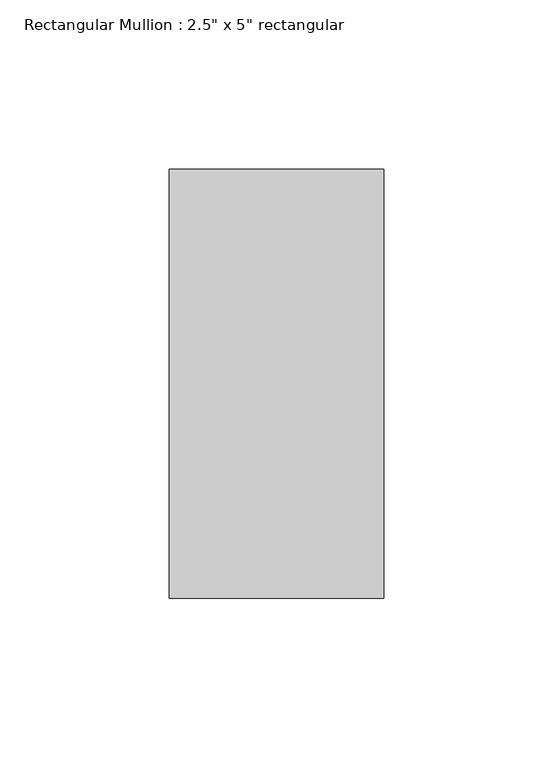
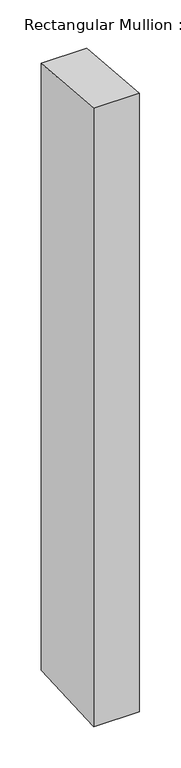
"""IFC4 building model written with IfcOpenShell, lengths in millimetres: member geometry."""

from ifc_helpers import new_model, si_unit, frame, origin, place, context, project, spatial, polyline, outline, extrude, source, transform, mapped, element, save


def member_efa39264(model_context):
    return source(origin(), model_context, "Body", "SweptSolid", [
        extrude(outline(polyline([(-63.5, 5.050167), (63.5, -5.050167), (63.5, -901.7257952), (-63.5, -908.4514851), (-63.5, 5.050167)])), frame((-63.5, 0.0, 0.0), z_axis=(1.0, 0.0, 0.0), x_axis=(0.0, 1.0, 0.0)), (0.0, 0.0, 1.0), 63.5),
    ])


if __name__ == "__main__":
    model = new_model("IFC4")
    model_context = context("Model", 3, world=origin())
    ifc_project = project(units=[si_unit("LENGTHUNIT", "METRE", prefix="MILLI")], contexts=[model_context])
    site = spatial("IfcSite", under=ifc_project)
    building = spatial("IfcBuilding", under=site)
    placement = place(None, origin())
    member_shape = member_efa39264(model_context)
    element("IfcMember", 1, ObjectType="Rectangular Mullion : 2.5\" x 5\" rectangular", at=placement, inside=building, context=model_context, shape_type="MappedRepresentation", body=[
        mapped(member_shape, transform((0.0, 0.0, 0.0), x_axis=(1.0, 0.0, 0.0), y_axis=(0.0, 1.0, 0.0), z_axis=(0.0, 0.0, 1.0))),
    ])
    save(model, "model.ifc")
